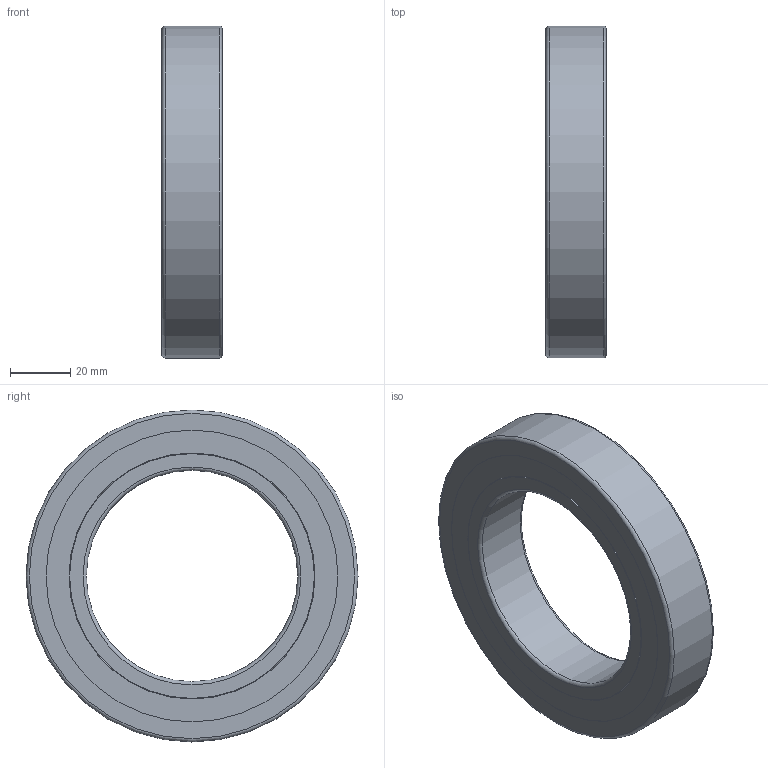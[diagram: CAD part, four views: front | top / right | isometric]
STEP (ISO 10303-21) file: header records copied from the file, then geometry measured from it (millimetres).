
FILE_DESCRIPTION(/* description */ (''),/* implementation_level */ '2;1');
FILE_NAME(/* name */ 'KH_6014_TA.step',/* time_stamp */ '2013-03-07T07:04:34+01:00',/* author */ ('Marian'),/* organization */ ('GMN'),/* preprocessor_version */ 'ST-DEVELOPER v11',/* originating_system */ 'SIEMENS UGS NX 6.0',/* authorisation */ '');
FILE_SCHEMA (('CONFIG_CONTROL_DESIGN'));
Length unit declared in the file: millimetre
Products named in the file (1): KH_6014_TA
Bounding box: 20 x 110 x 110 mm (x, y, z)
Volume: 90149.8 mm3; surface area: 55235.4 mm2
Topology: 29 solids, 29 shells, 80 faces, 200 edges, 130 vertices
Faces by surface type: cylinder 37, sphere 24, plane 12, torus 6, cone 1
Full cylindrical faces by diameter (mm): 9.725 x24, 70 x1, 81.1 x1, 81.5 x1, 82.6 x1, 83 x1, 88.525 x1, 94.45 x1, 94.85 x1, 96.7 x2, 100.8 x2, 110 x1
Entity records: 2518 total; most frequent: CARTESIAN_POINT 1081, DIRECTION 226, FACE_BOUND 184, EDGE_LOOP 160, ORIENTED_EDGE 160, AXIS2_PLACEMENT_3D 113, VERTEX_POINT 104, ADVANCED_FACE 80
